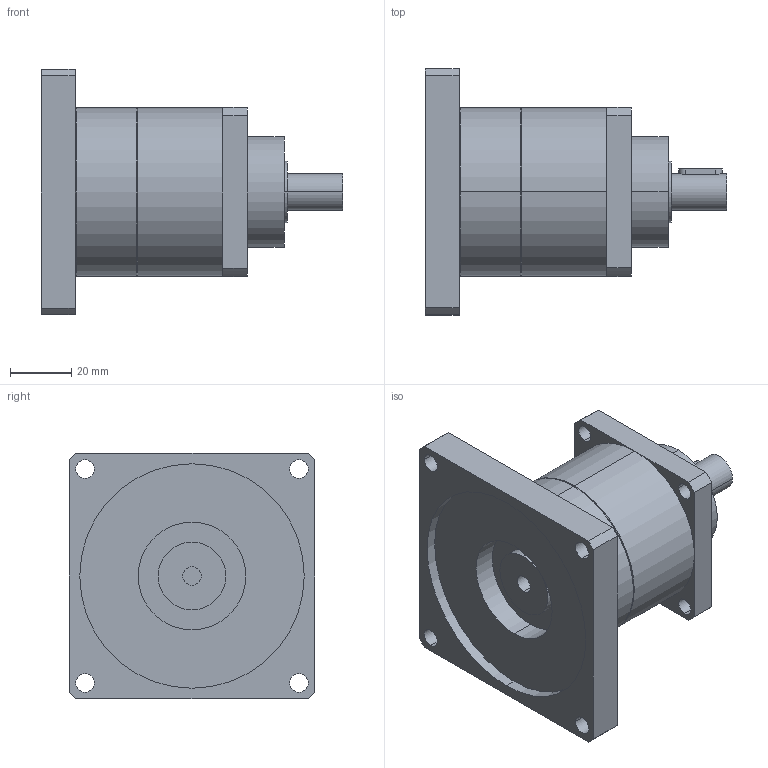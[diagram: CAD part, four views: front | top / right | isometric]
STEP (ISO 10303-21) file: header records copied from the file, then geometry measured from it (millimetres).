
FILE_DESCRIPTION(('CoCreate Modeling STEP Export'),'2;1');
FILE_NAME('GPT55_ig-3-4-5-7-10_12_B5A_6_P06.stp','2014-08-25T14:32:36',(''),(''),'CoCreate Modeling STEP processor for AP214 (Solid Model)','CoCreate Modeling 16.00C 25-Feb-2009 (C) Parametric Technology GmbH','');
FILE_SCHEMA(('AUTOMOTIVE_DESIGN { 1 0 10303 214 1 1 1 1 }'));
Length unit declared in the file: millimetre
Products named in the file (2): GPT55_ig-3-4-5-7-10_12_B5A_6_P06
Assembly tree (1 placements, depth 2):
  GPT55_ig-3-4-5-7-10_12_B5A_6_P06
    GPT55_ig-3-4-5-7-10_12_B5A_6_P06
Bounding box: 98 x 80 x 80 mm (x, y, z)
Volume: 199534.8 mm3; surface area: 33174.6 mm2
Topology: 1 solids, 1 shells, 77 faces, 204 edges, 139 vertices
Faces by surface type: cylinder 46, plane 27, cone 4
Entity records: 2515 total; most frequent: CARTESIAN_POINT 710, ORIENTED_EDGE 408, DIRECTION 318, EDGE_CURVE 204, VERTEX_POINT 139, AXIS2_PLACEMENT_3D 117, EDGE_LOOP 103, VECTOR 84
